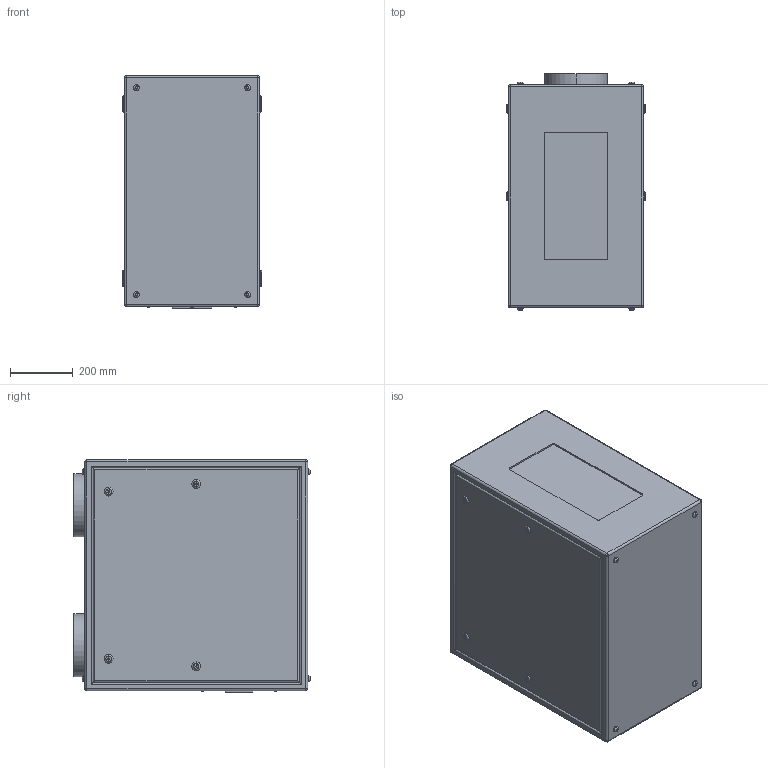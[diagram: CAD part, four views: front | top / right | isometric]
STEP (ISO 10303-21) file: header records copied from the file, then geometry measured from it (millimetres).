
FILE_DESCRIPTION (( 'STEP AP214' ), '1' );
FILE_NAME ('Tacit 56.050.P R07.STEP', '2022-09-11T22:44:33', ( '' ), ( '' ), 'SwSTEP 2.0', 'SolidWorks 2020', '' );
FILE_SCHEMA (( 'AUTOMOTIVE_DESIGN' ));
Length unit declared in the file: inch
Products named in the file (1): Tacit 56.050.P R07
Bounding box: 444.5 x 754.25 x 741.68 mm (x, y, z)
Volume: 225422167.4 mm3; surface area: 2660406.5 mm2
Topology: 1 solids, 5 shells, 413 faces, 920 edges, 580 vertices
Faces by surface type: plane 217, cylinder 144, torus 44, sphere 8
Entity records: 14367 total; most frequent: DIRECTION 2068, CARTESIAN_POINT 1954, ORIENTED_EDGE 1824, EDGE_CURVE 912, AXIS2_PLACEMENT_3D 758, VERTEX_POINT 580, VECTOR 552, LINE 552
